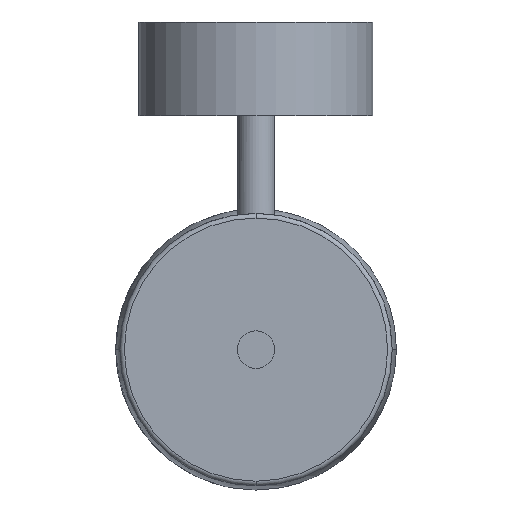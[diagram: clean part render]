
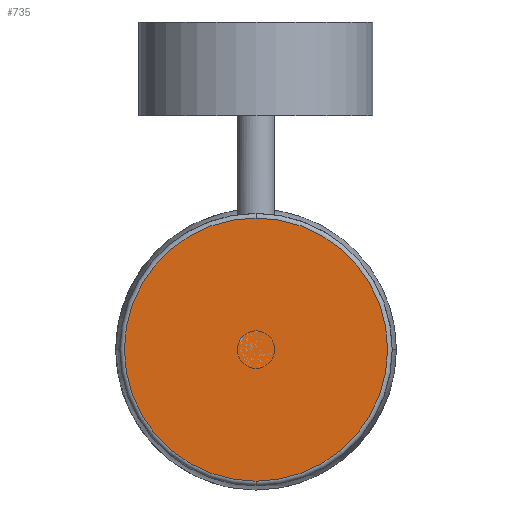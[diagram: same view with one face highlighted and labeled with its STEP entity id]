
A CAD part, front view. The second image highlights one B-rep face of the part: STEP entity #735.
In plain terms, the highlighted planar face has unit normal (0, -1, 0).
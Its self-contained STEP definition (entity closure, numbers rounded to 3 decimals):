
#53 = AXIS2_PLACEMENT_3D ( 'NONE', #681, #847, #267 ) ;
#66 = CIRCLE ( 'NONE', #754, 56.239 ) ;
#100 = CARTESIAN_POINT ( 'NONE',  ( 0., 0., -56.239 ) ) ;
#205 = DIRECTION ( 'NONE',  ( 0., 0., 1. ) ) ;
#267 = DIRECTION ( 'NONE',  ( 0., 0., 1. ) ) ;
#309 = ORIENTED_EDGE ( 'NONE', *, *, #629, .T. ) ;
#364 = FACE_OUTER_BOUND ( 'NONE', #646, .T. ) ;
#400 = VERTEX_POINT ( 'NONE', #1005 ) ;
#442 = DIRECTION ( 'NONE',  ( 0., -1., 0. ) ) ;
#450 = ORIENTED_EDGE ( 'NONE', *, *, #599, .T. ) ;
#455 = CIRCLE ( 'NONE', #53, 56.239 ) ;
#519 = DIRECTION ( 'NONE',  ( 0., 0., 1. ) ) ;
#549 = CARTESIAN_POINT ( 'NONE',  ( 0., 0., 0. ) ) ;
#599 = EDGE_CURVE ( 'NONE', #400, #611, #455, .T. ) ;
#611 = VERTEX_POINT ( 'NONE', #100 ) ;
#629 = EDGE_CURVE ( 'NONE', #611, #400, #66, .T. ) ;
#646 = EDGE_LOOP ( 'NONE', ( #450, #309 ) ) ;
#681 = CARTESIAN_POINT ( 'NONE',  ( 0., 0., 0. ) ) ;
#700 = DIRECTION ( 'NONE',  ( 0., 1., 0. ) ) ;
#735 = ADVANCED_FACE ( 'NONE', ( #364 ), #949, .F. ) ;
#754 = AXIS2_PLACEMENT_3D ( 'NONE', #928, #442, #519 ) ;
#847 = DIRECTION ( 'NONE',  ( 0., -1., 0. ) ) ;
#898 = AXIS2_PLACEMENT_3D ( 'NONE', #549, #700, #205 ) ;
#928 = CARTESIAN_POINT ( 'NONE',  ( 0., 0., 0. ) ) ;
#949 = PLANE ( 'NONE',  #898 ) ;
#1005 = CARTESIAN_POINT ( 'NONE',  ( 0., 0., 56.239 ) ) ;
